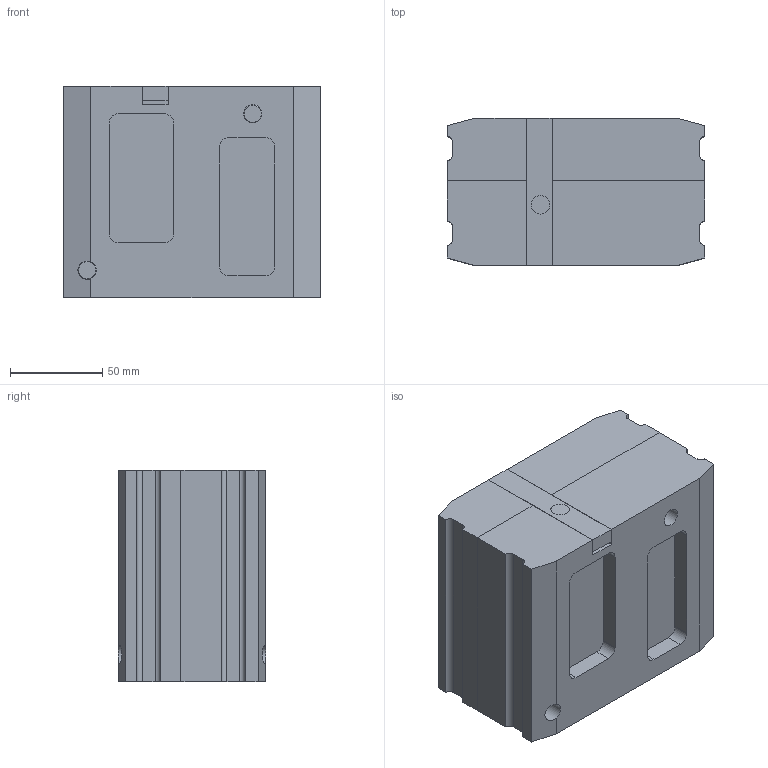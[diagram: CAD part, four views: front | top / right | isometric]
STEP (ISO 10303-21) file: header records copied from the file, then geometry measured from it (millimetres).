
FILE_DESCRIPTION(('Open CASCADE Model'),'2;1');
FILE_NAME('Open CASCADE Shape Model','2026-09-27T02:18:03',('Author'),( 'Open CASCADE'),'Open CASCADE STEP processor 7.9','Open CASCADE 7.9' ,'Unknown');
FILE_SCHEMA(('AUTOMOTIVE_DESIGN { 1 0 10303 214 1 1 1 1 }'));
Length unit declared in the file: millimetre
Products named in the file (14): B66803-3969_REVIEW_RECONSTRUCTION_mm; B66803-3969-1_back_matrix_REVIEW; B66803-3969-2_trough_matrix_REVIEW; B66803-3969-3_plate; B66803-3969-4_upper_plank; B66803-3969-5_discharger; item07_M8x25_GOST1491_screw_1; item07_M8x25_GOST1491_screw_2; item08_D8x30_GOST3128_dowel_1; item08_D8x30_GOST3128_dowel_2; item09_7051-4108_GOST18433_bush_1; item10_7030-0905_D10_GOST12209_pin_1; item09_7051-4108_GOST18433_bush_2; item10_7030-0905_D10_GOST12209_pin_2
Assembly tree (13 placements, depth 2):
  B66803-3969_REVIEW_RECONSTRUCTION_mm
    B66803-3969-1_back_matrix_REVIEW
    B66803-3969-2_trough_matrix_REVIEW
    B66803-3969-3_plate
    B66803-3969-4_upper_plank
    B66803-3969-5_discharger
    item07_M8x25_GOST1491_screw_1
    item07_M8x25_GOST1491_screw_2
    item08_D8x30_GOST3128_dowel_1
    item08_D8x30_GOST3128_dowel_2
    item09_7051-4108_GOST18433_bush_1
    item10_7030-0905_D10_GOST12209_pin_1
    item09_7051-4108_GOST18433_bush_2
    item10_7030-0905_D10_GOST12209_pin_2
Bounding box: 140 x 80 x 115 mm (x, y, z)
Volume: 1140318.2 mm3; surface area: 160405.5 mm2
Topology: 13 solids, 13 shells, 1548 faces, 4166 edges, 2748 vertices
Faces by surface type: plane 1083, bspline 351, cylinder 97, cone 17
Full cylindrical faces by diameter (mm): 4 x31, 6 x1, 6.4 x1, 7 x3, 8 x10, 9 x2, 10 x12, 13 x2, 14 x2, 15 x4, 16 x3
Entity records: 449662 total; most frequent: CARTESIAN_POINT 382110, ORIENTED_EDGE 8330, PCURVE 8330, DEFINITIONAL_REPRESENTATION 8330, B_SPLINE_CURVE_WITH_KNOTS 8250, DIRECTION 6841, EDGE_CURVE 4165, SURFACE_CURVE 4077
